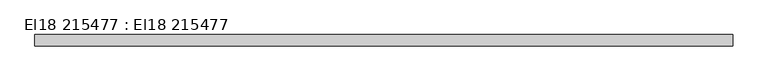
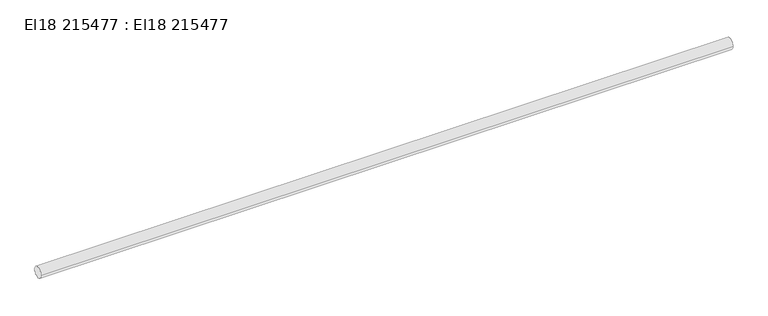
"""IFC4 building model written with IfcOpenShell, lengths in millimetres: cable carrier segment geometry, El18 215477 : El18 215477."""

from ifc_helpers import new_model, si_unit, point, frame, frame_2d, origin, place, context, project, spatial, circle_curve, trimmed, segment, composite_curve, outline, extrude, source, transform, mapped, element, save


def el18_215477_el18_215477_1942ff65(model_context):
    return source(origin(), model_context, "Body", "SweptSolid", [
        extrude(outline(composite_curve([segment(trimmed(circle_curve(frame_2d((17022.1, 4200.0)), 9.5), [point((17012.6, 4200.0))], [point((17031.6, 4200.0))], False, "CARTESIAN"), True, "CONTINUOUS"), segment(trimmed(circle_curve(frame_2d((17022.1, 4200.0)), 9.5), [point((17031.6, 4200.0))], [point((17012.6, 4200.0))], False, "CARTESIAN"), True, "CONTINUOUS")], self_intersect=False)), frame((19705.0, 0.0, 0.0), z_axis=(1.0, 0.0, 0.0), x_axis=(0.0, 1.0, 0.0)), (0.0, 0.0, 1.0), 1180.0),
    ])


if __name__ == "__main__":
    model = new_model("IFC4")
    model_context = context("Model", 3, world=origin())
    ifc_project = project(units=[si_unit("LENGTHUNIT", "METRE", prefix="MILLI")], contexts=[model_context])
    site = spatial("IfcSite", under=ifc_project)
    building = spatial("IfcBuilding", under=site)
    placement = place(None, origin())
    el18_215477_el18_215477_shape = el18_215477_el18_215477_1942ff65(model_context)
    element("IfcCableCarrierSegment", 1, ObjectType="El18 215477 : El18 215477", at=placement, inside=building, context=model_context, shape_type="MappedRepresentation", body=[
        mapped(el18_215477_el18_215477_shape, transform((0.0, 0.0, 0.0), x_axis=(1.0, 0.0, 0.0), y_axis=(0.0, 1.0, 0.0), z_axis=(0.0, 0.0, 1.0))),
    ])
    save(model, "model.ifc")
